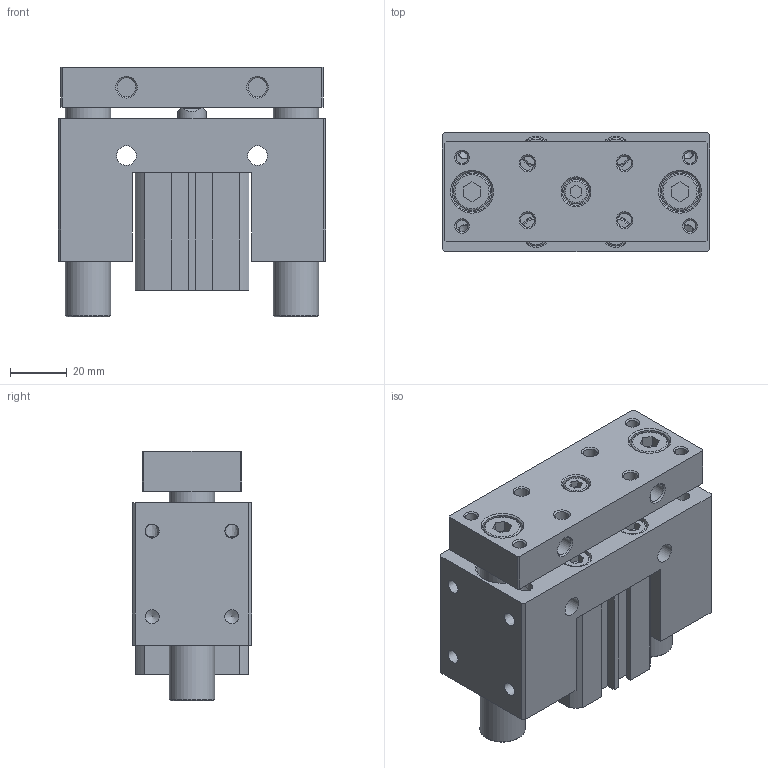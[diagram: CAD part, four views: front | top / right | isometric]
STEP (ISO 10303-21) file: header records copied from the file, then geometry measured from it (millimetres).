
FILE_DESCRIPTION((''),'2;1');
FILE_NAME('I:\3D電子目錄\氣缸\JCB\JCB\JCB25\JCB25x20.stp','2007-08-21T19:17:59',('Administrator'),(''),'Autodesk Inventor 11','Autodesk Inventor 11','');
FILE_SCHEMA(('AUTOMOTIVE_DESIGN { 1 0 10303 214 1 1 1 1 }'));
Length unit declared in the file: millimetre
Products named in the file (1): JCB25
Bounding box: 94 x 42 x 87.5 mm (x, y, z)
Volume: 230929.4 mm3; surface area: 69758.2 mm2
Topology: 5 solids, 5 shells, 323 faces, 740 edges, 483 vertices
Faces by surface type: plane 172, bspline 61, cylinder 47, cone 35, torus 8
Full cylindrical faces by diameter (mm): 1.5 x2, 4.917 x4, 5.1 x4, 6.647 x2, 8 x8, 8.5 x1, 10 x5, 11 x1, 13 x2, 16 x2, 17 x2, 18 x2, 28 x4, 29.4 x2
Entity records: 8980 total; most frequent: CARTESIAN_POINT 2309, DIRECTION 1332, ORIENTED_EDGE 1160, EDGE_CURVE 580, EDGE_LOOP 544, AXIS2_PLACEMENT_3D 493, VERTEX_POINT 454, VECTOR 346
